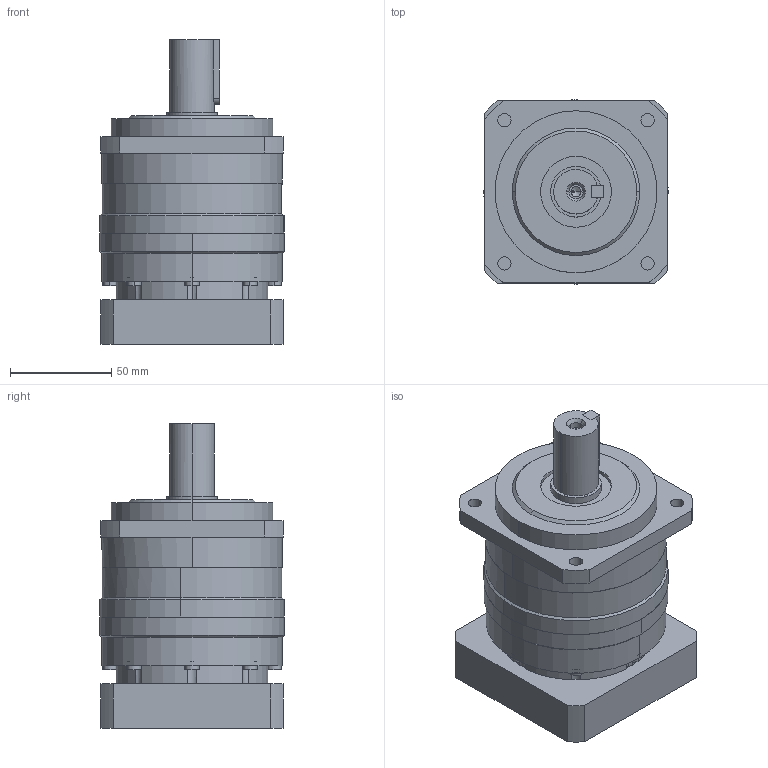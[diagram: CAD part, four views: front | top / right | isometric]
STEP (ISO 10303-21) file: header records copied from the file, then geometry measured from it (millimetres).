
FILE_DESCRIPTION (( 'STEP AP203' ), '1' );
FILE_NAME ('PLM90 -L1-19-70-90.STEP', '2022-07-04T09:44:15', ( 'Windows User' ), ( 'P R C' ), 'SwSTEP 2.0', 'SolidWorks 2016', '' );
FILE_SCHEMA (( 'CONFIG_CONTROL_DESIGN' ));
Length unit declared in the file: millimetre
Products named in the file (8): PLM90蟀諉啣; PLM90 -L1-19-70-90; PLM90 内齿圈_一级内齿圈; PLM90 奻裔唳; PLM90 下盖板_一级下盖板; 等埴瑩 6x6x32; 囀鞠褒蹟佪-M6℅16; 粣創-6006 30x55x13
Assembly tree (7 placements, depth 2):
  PLM90 -L1-19-70-90
    PLM90 内齿圈_一级内齿圈
    PLM90 奻裔唳
    PLM90 下盖板_一级下盖板
    等埴瑩 6x6x32
    囀鞠褒蹟佪-M6℅16
    粣創-6006 30x55x13
    PLM90蟀諉啣
Bounding box: 91 x 91 x 150.5 mm (x, y, z)
Volume: 672705.8 mm3; surface area: 134193.5 mm2
Topology: 7 solids, 7 shells, 1089 faces, 2999 edges, 1973 vertices
Faces by surface type: plane 545, cylinder 223, bspline 159, sphere 77, torus 49, cone 36
Entity records: 44465 total; most frequent: CARTESIAN_POINT 17128, ORIENTED_EDGE 5880, DIRECTION 4964, EDGE_CURVE 2940, VERTEX_POINT 1951, AXIS2_PLACEMENT_3D 1753, LINE 1458, VECTOR 1458
